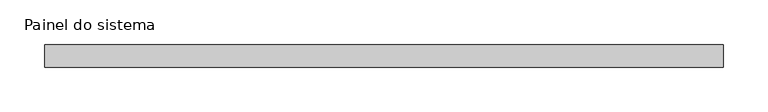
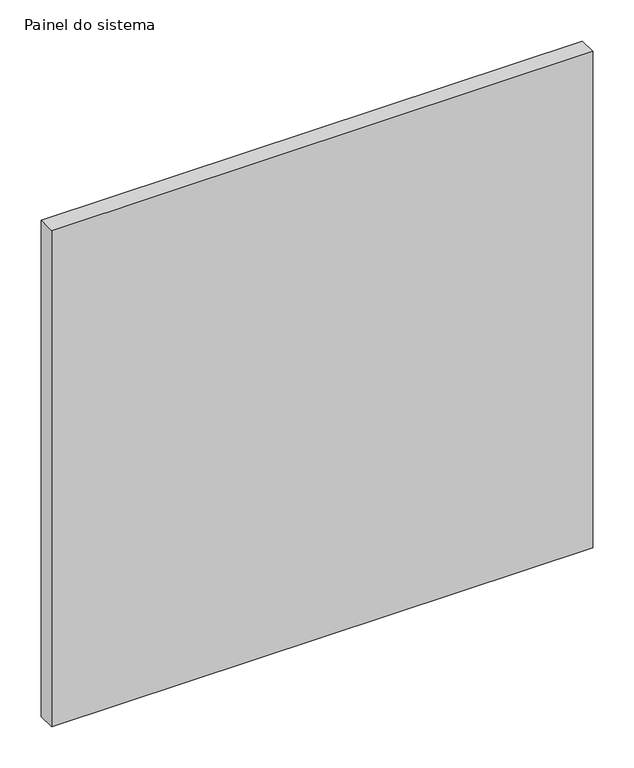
"""IFC4 building model written with IfcOpenShell, lengths in millimetres: plate geometry, Painel do sistema : Envidraçado."""

from ifc_helpers import new_model, si_unit, origin, origin_with_axes, place, context, project, spatial, polyline, outline, extrude, source, transform, mapped, element, save


def painel_do_sistema_fcb6b9e3(model_context):
    return source(origin(), model_context, "Body", "SweptSolid", [
        extrude(outline(polyline([(379.166496, 24.5), (-379.166496, 24.5), (-379.166496, 49.5), (379.166496, 49.5), (379.166496, 24.5)])), origin_with_axes(), (0.0, 0.0, 1.0), 735.0),
    ])


if __name__ == "__main__":
    model = new_model("IFC4")
    model_context = context("Model", 3, world=origin())
    ifc_project = project(units=[si_unit("LENGTHUNIT", "METRE", prefix="MILLI")], contexts=[model_context])
    site = spatial("IfcSite", under=ifc_project)
    building = spatial("IfcBuilding", under=site)
    placement = place(None, origin())
    painel_do_sistema_shape = painel_do_sistema_fcb6b9e3(model_context)
    element("IfcPlate", 1, ObjectType="Painel do sistema : Envidraçado", at=placement, inside=building, context=model_context, shape_type="MappedRepresentation", body=[
        mapped(painel_do_sistema_shape, transform((0.0, 0.0, 0.0), x_axis=(1.0, 0.0, 0.0), y_axis=(0.0, 1.0, 0.0), z_axis=(0.0, 0.0, 1.0))),
    ])
    save(model, "model.ifc")
